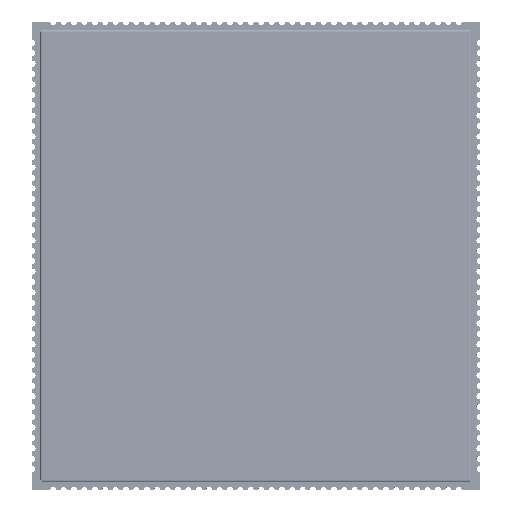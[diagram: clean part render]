
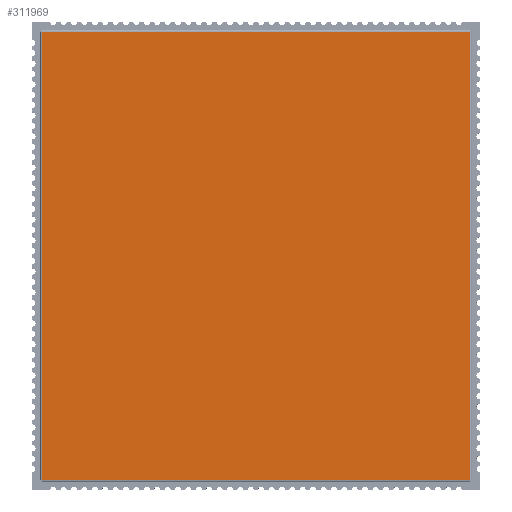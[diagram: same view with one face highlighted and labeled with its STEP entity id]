
A CAD part, top view. The second image highlights one B-rep face of the part: STEP entity #311969.
In plain terms, the highlighted planar face has unit normal (0, 0, 1) as drawn and (0, 1, 0) by its records, which use the part's own axes.
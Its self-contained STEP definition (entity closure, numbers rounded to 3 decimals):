
#309118=DIRECTION('',(0.,0.,-1.));
#309119=VECTOR('',#309118,43.1);
#309120=CARTESIAN_POINT('',(-20.55,0.2,21.55));
#309121=LINE('',#309120,#309119);
#309765=DIRECTION('',(-1.,0.,0.));
#309766=VECTOR('',#309765,41.1);
#309767=CARTESIAN_POINT('',(20.55,0.2,21.55));
#309768=LINE('',#309767,#309766);
#309795=DIRECTION('',(1.,0.,0.));
#309796=VECTOR('',#309795,41.1);
#309797=CARTESIAN_POINT('',(-20.55,0.2,-21.55));
#309798=LINE('',#309797,#309796);
#310348=DIRECTION('',(0.,0.,1.));
#310349=VECTOR('',#310348,43.1);
#310350=CARTESIAN_POINT('',(20.55,0.2,-21.55));
#310351=LINE('',#310350,#310349);
#310722=CARTESIAN_POINT('',(-20.55,0.2,-21.55));
#310723=VERTEX_POINT('',#310722);
#310724=CARTESIAN_POINT('',(-20.55,0.2,21.55));
#310725=VERTEX_POINT('',#310724);
#310734=CARTESIAN_POINT('',(20.55,0.2,21.55));
#310735=VERTEX_POINT('',#310734);
#310736=CARTESIAN_POINT('',(20.55,0.2,-21.55));
#310737=VERTEX_POINT('',#310736);
#311956=CARTESIAN_POINT('',(0.,0.2,0.));
#311957=DIRECTION('',(0.,1.,0.));
#311958=DIRECTION('',(1.,0.,0.));
#311959=AXIS2_PLACEMENT_3D('',#311956,#311957,#311958);
#311960=PLANE('',#311959);
#311961=ORIENTED_EDGE('',*,*,#311947,.T.);
#311962=ORIENTED_EDGE('',*,*,#311396,.T.);
#311964=ORIENTED_EDGE('',*,*,#311963,.T.);
#311966=ORIENTED_EDGE('',*,*,#311965,.T.);
#311967=EDGE_LOOP('',(#311961,#311962,#311964,#311966));
#311968=FACE_OUTER_BOUND('',#311967,.F.);
#311396=EDGE_CURVE('',#310725,#310723,#309121,.T.);
#311947=EDGE_CURVE('',#310735,#310725,#309768,.T.);
#311963=EDGE_CURVE('',#310723,#310737,#309798,.T.);
#311965=EDGE_CURVE('',#310737,#310735,#310351,.T.);
#311969=ADVANCED_FACE('',(#311968),#311960,.T.);
